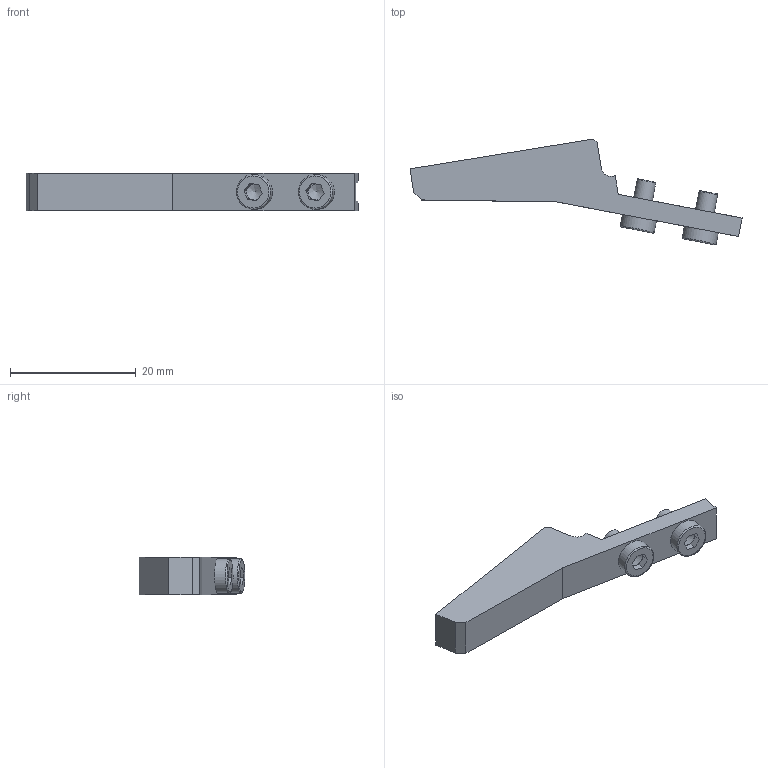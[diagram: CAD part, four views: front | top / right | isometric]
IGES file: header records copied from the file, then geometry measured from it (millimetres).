
Start section: SolidWorks IGES file using analytic representation for surfaces
Global section: file name: C:\Users\STAR079\Desktop\2月1日納期データ\023285\ネット記載用\023285.IGS; native system: SolidWorks 2013; preprocessor: SolidWorks 2013; author: STAR079; date: 170109.172132; units: millimetre
Bounding box: 52.72 x 16.78 x 6 mm (x, y, z)
Surface area: 1680.9 mm2 (no closed solid volume)
Topology: 0 solids, 0 shells, 73 faces, 348 edges, 326 vertices
Faces by surface type: bspline 50, revolution 23
